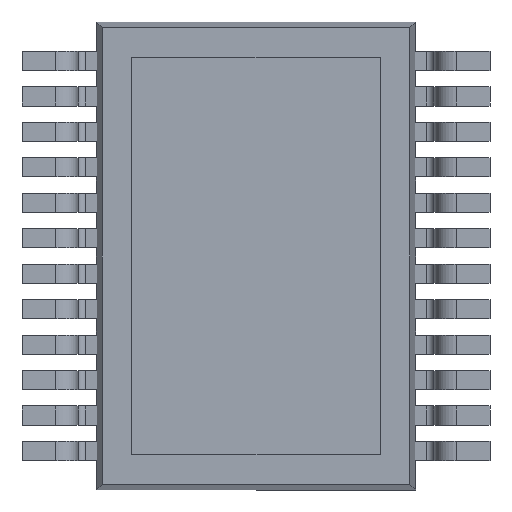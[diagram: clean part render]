
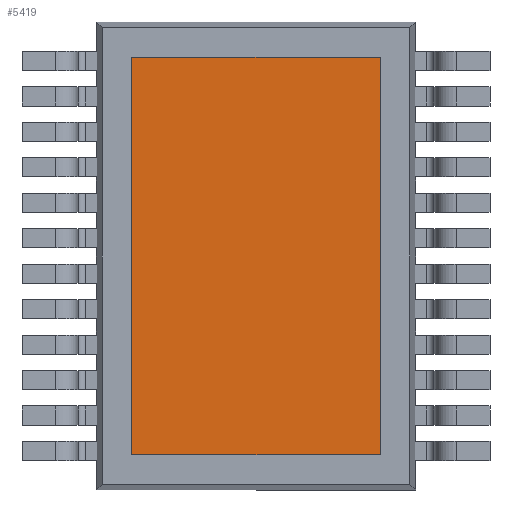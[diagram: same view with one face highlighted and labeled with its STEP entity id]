
A CAD part, front view. The second image highlights one B-rep face of the part: STEP entity #5419.
In plain terms, the highlighted planar face has unit normal (0, -1, 0).
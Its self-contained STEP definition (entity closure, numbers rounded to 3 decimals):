
#1671 = EDGE_LOOP ( 'NONE', ( #11895, #11894, #11893, #11892 ) ) ;
#1868 = PLANE ( 'NONE',  #14835 ) ;
#1876 = CARTESIAN_POINT ( 'NONE',  ( 0., 0., 0. ) ) ;
#1877 = DIRECTION ( 'NONE',  ( 0., 1., 0. ) ) ;
#1878 = DIRECTION ( 'NONE',  ( 0., 0., 1. ) ) ;
#2610 = CARTESIAN_POINT ( 'NONE',  ( 1.75, 0., -2.8 ) ) ;
#2614 = CARTESIAN_POINT ( 'NONE',  ( 1.75, 0., 2.8 ) ) ;
#2629 = CARTESIAN_POINT ( 'NONE',  ( -1.75, 0., 2.8 ) ) ;
#2630 = CARTESIAN_POINT ( 'NONE',  ( -1.75, 0., -2.8 ) ) ;
#4622 = EDGE_CURVE ( 'NONE', #14386, #14387, #14490, .T. ) ;
#4631 = EDGE_CURVE ( 'NONE', #14387, #14413, #14504, .T. ) ;
#4633 = EDGE_CURVE ( 'NONE', #14413, #14416, #14505, .T. ) ;
#4634 = EDGE_CURVE ( 'NONE', #14416, #14386, #14512, .T. ) ;
#5419 = ADVANCED_FACE ( 'NONE', ( #11670 ), #1868, .F. ) ;
#9131 = CARTESIAN_POINT ( 'NONE',  ( 1.75, 0., 2.8 ) ) ;
#9132 = DIRECTION ( 'NONE',  ( 0., 0., 1. ) ) ;
#9148 = CARTESIAN_POINT ( 'NONE',  ( -1.75, 0., 2.8 ) ) ;
#9151 = CARTESIAN_POINT ( 'NONE',  ( -1.75, 0., 2.8 ) ) ;
#9154 = DIRECTION ( 'NONE',  ( -1., 0., 0. ) ) ;
#9157 = DIRECTION ( 'NONE',  ( 0., 0., -1. ) ) ;
#9158 = CARTESIAN_POINT ( 'NONE',  ( -1.75, 0., -2.8 ) ) ;
#9160 = DIRECTION ( 'NONE',  ( 1., 0., 0. ) ) ;
#11670 = FACE_OUTER_BOUND ( 'NONE', #1671, .T. ) ;
#11892 = ORIENTED_EDGE ( 'NONE', *, *, #4634, .T. ) ;
#11893 = ORIENTED_EDGE ( 'NONE', *, *, #4633, .T. ) ;
#11894 = ORIENTED_EDGE ( 'NONE', *, *, #4631, .T. ) ;
#11895 = ORIENTED_EDGE ( 'NONE', *, *, #4622, .T. ) ;
#14386 = VERTEX_POINT ( 'NONE', #2610 ) ;
#14387 = VERTEX_POINT ( 'NONE', #2614 ) ;
#14413 = VERTEX_POINT ( 'NONE', #2629 ) ;
#14416 = VERTEX_POINT ( 'NONE', #2630 ) ;
#14490 = LINE ( 'NONE', #9131, #14494 ) ;
#14494 = VECTOR ( 'NONE', #9132, 1000. ) ;
#14504 = LINE ( 'NONE', #9148, #14508 ) ;
#14505 = LINE ( 'NONE', #9151, #14513 ) ;
#14508 = VECTOR ( 'NONE', #9154, 1000. ) ;
#14512 = LINE ( 'NONE', #9158, #14543 ) ;
#14513 = VECTOR ( 'NONE', #9157, 1000. ) ;
#14543 = VECTOR ( 'NONE', #9160, 1000. ) ;
#14835 = AXIS2_PLACEMENT_3D ( 'NONE', #1876, #1877, #1878 ) ;
